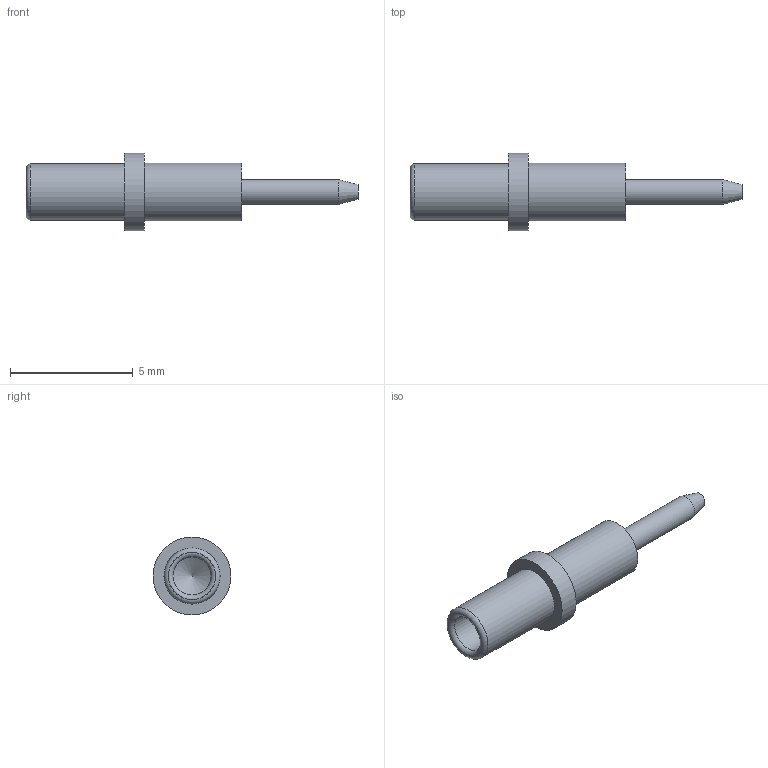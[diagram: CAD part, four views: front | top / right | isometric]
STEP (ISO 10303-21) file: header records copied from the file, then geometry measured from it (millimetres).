
FILE_DESCRIPTION(/* description */ (''),/* implementation_level */ '2;1');
FILE_NAME(/* name */ '\\Snap1\dwgs\Customer 3D Models\450\450-3310-04 Customer model.stp',/* time_stamp */ '2016-12-13T17:28:40+00:00',/* author */ ('paulk'),/* organization */ (''),/* preprocessor_version */ 'ST-DEVELOPER v15.2',/* originating_system */ 'Autodesk Inventor 2014',/* authorisation */ '');
FILE_SCHEMA (('CONFIG_CONTROL_DESIGN'));
Length unit declared in the file: millimetre
Products named in the file (1): 450-3310-04 Customer model
Bounding box: 13.54 x 3.17 x 3.17 mm (x, y, z)
Volume: 32.9 mm3; surface area: 124.1 mm2
Topology: 1 solids, 1 shells, 14 faces, 24 edges, 14 vertices
Faces by surface type: cylinder 5, plane 4, cone 3, torus 2
Full cylindrical faces by diameter (mm): 1.016 x1, 1.55 x1, 2.286 x1, 2.362 x1, 3.175 x1
Entity records: 295 total; most frequent: DIRECTION 56, CARTESIAN_POINT 41, AXIS2_PLACEMENT_3D 28, EDGE_LOOP 26, ORIENTED_EDGE 26, ADVANCED_FACE 14, FACE_BOUND 13, FACE_OUTER_BOUND 13
